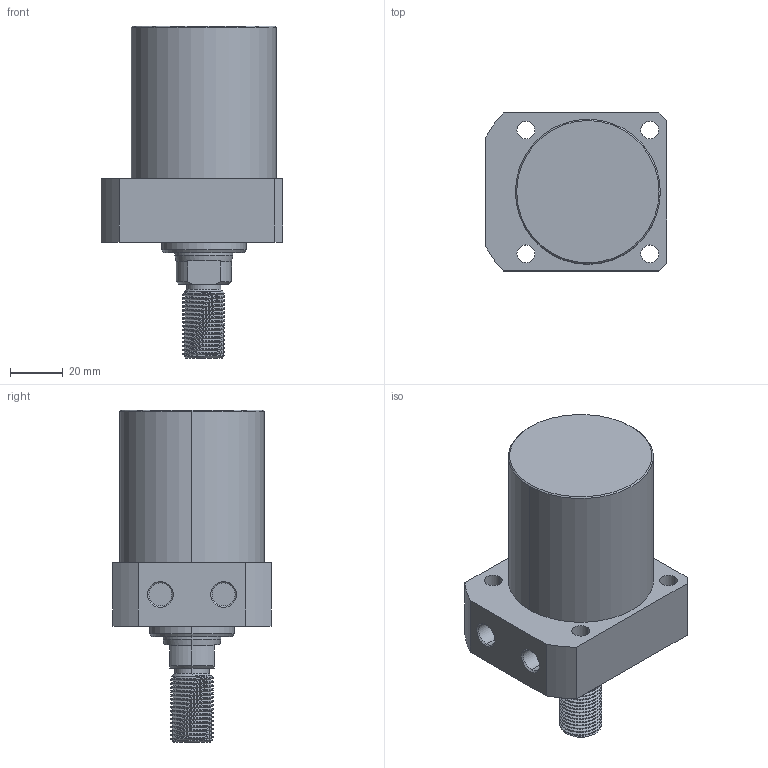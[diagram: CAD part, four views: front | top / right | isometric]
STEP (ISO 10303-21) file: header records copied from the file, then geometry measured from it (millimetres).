
FILE_DESCRIPTION (( 'STEP AP214' ), '1' );
FILE_NAME ('CLLR-055CT-045.STEP', '2020-01-09T00:28:55', ( 'Windows' ), ( 'Microsoft' ), 'SwSTEP 2.0', 'SolidWorks 2015', '' );
FILE_SCHEMA (( 'AUTOMOTIVE_DESIGN' ));
Length unit declared in the file: millimetre
Products named in the file (1): CLLR-055CT-045
Bounding box: 69 x 60 x 126 mm (x, y, z)
Volume: 242191 mm3; surface area: 29946.6 mm2
Topology: 1 solids, 1 shells, 100 faces, 257 edges, 167 vertices
Faces by surface type: cylinder 61, plane 20, cone 17, bspline 2
Entity records: 4992 total; most frequent: CARTESIAN_POINT 2668, ORIENTED_EDGE 514, DIRECTION 451, EDGE_CURVE 257, AXIS2_PLACEMENT_3D 176, VERTEX_POINT 167, EDGE_LOOP 116, ADVANCED_FACE 100
